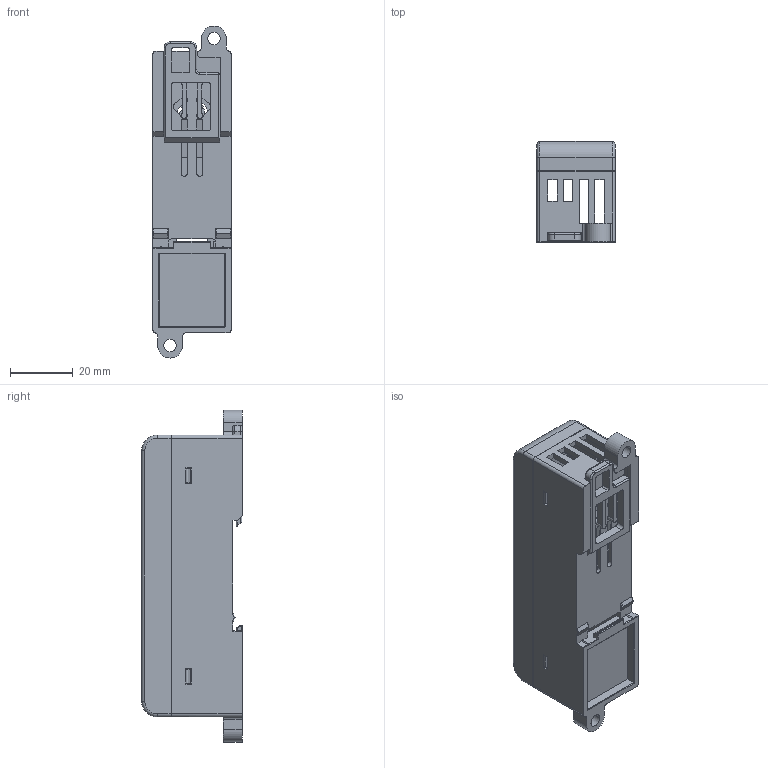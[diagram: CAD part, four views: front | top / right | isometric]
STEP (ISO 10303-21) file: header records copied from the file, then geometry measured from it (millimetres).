
FILE_DESCRIPTION((''),'2;1');
FILE_NAME('B1-CM_ASM','2021-06-09T',('Jacky Chang'),('ME Department of NTUST'),'PRO/ENGINEER BY PARAMETRIC TECHNOLOGY CORPORATION, 2014200','PRO/ENGINEER BY PARAMETRIC TECHNOLOGY CORPORATION, 2014200','');
FILE_SCHEMA(('CONFIG_CONTROL_DESIGN','GEOMETRIC_VALIDATION_PROPERTIES_MIM'));
Length unit declared in the file: millimetre
Products named in the file (5): B1-CM22_UP_COVER; B1-CM_DOWN_COVER_NEW; DIN-RAIL-NEW; B1-CM_DOWN_COVER_NEW_ASM; B1-CM_ASM
Assembly tree (4 placements, depth 3):
  B1-CM_ASM
    B1-CM22_UP_COVER
    B1-CM_DOWN_COVER_NEW_ASM
      B1-CM_DOWN_COVER_NEW
      DIN-RAIL-NEW
Bounding box: 25 x 32.1 x 106 mm (x, y, z)
Volume: 19977.1 mm3; surface area: 25274.1 mm2
Topology: 3 solids, 3 shells, 623 faces, 1777 edges, 1146 vertices
Faces by surface type: plane 419, cylinder 168, sphere 16, torus 14, bspline 4, cone 2
Entity records: 25970 total; most frequent: CARTESIAN_POINT 3805, ORIENTED_EDGE 3554, DIRECTION 3342, PRESENTATION_STYLE_ASSIGNMENT 1780, STYLED_ITEM 1780, CURVE_STYLE 1777, EDGE_CURVE 1777, VECTOR 1390
